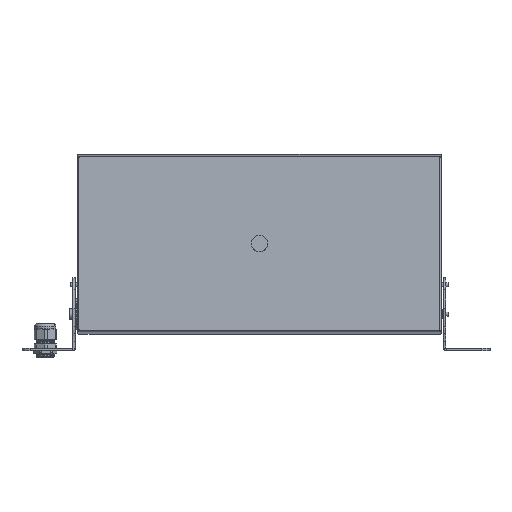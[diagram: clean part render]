
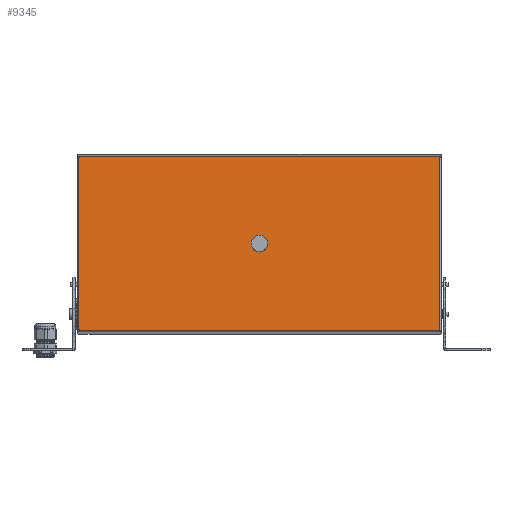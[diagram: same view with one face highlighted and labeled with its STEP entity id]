
A CAD part, front view. The second image highlights one B-rep face of the part: STEP entity #9345.
In plain terms, the highlighted planar face has unit normal (0, -0.999, 0.056) as drawn and (0, -0.99, 0.138) by its records, which use the part's own axes.
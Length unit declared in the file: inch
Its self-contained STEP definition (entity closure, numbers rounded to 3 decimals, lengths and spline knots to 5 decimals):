
#256 = DIRECTION ( 'NONE',  ( 0., 0.138, 0.99 ) ) ;
#483 = DIRECTION ( 'NONE',  ( 0., -0.138, -0.99 ) ) ;
#704 = EDGE_CURVE ( 'NONE', #8386, #9642, #7103, .T. ) ;
#846 = VERTEX_POINT ( 'NONE', #5104 ) ;
#978 = VERTEX_POINT ( 'NONE', #4442 ) ;
#1146 = DIRECTION ( 'NONE',  ( 0., -0.99, 0.138 ) ) ;
#1179 = VERTEX_POINT ( 'NONE', #2472 ) ;
#1240 = AXIS2_PLACEMENT_3D ( 'NONE', #10834, #4879, #11816 ) ;
#1357 = VECTOR ( 'NONE', #2723, 39.37008 ) ;
#1573 = CARTESIAN_POINT ( 'NONE',  ( -8.08, -1.05095, 8.05684 ) ) ;
#1667 = AXIS2_PLACEMENT_3D ( 'NONE', #12380, #6464, #483 ) ;
#1675 = VECTOR ( 'NONE', #10691, 39.37008 ) ;
#1680 = CARTESIAN_POINT ( 'NONE',  ( 8.14, -1.05095, 8.05684 ) ) ;
#2000 = ORIENTED_EDGE ( 'NONE', *, *, #12583, .F. ) ;
#2134 = CIRCLE ( 'NONE', #2526, 0.375 ) ;
#2293 = LINE ( 'NONE', #5677, #1675 ) ;
#2436 = CARTESIAN_POINT ( 'NONE',  ( 0., -1.53329, 4.59916 ) ) ;
#2472 = CARTESIAN_POINT ( 'NONE',  ( 8.08, -2.12753, 0.33924 ) ) ;
#2526 = AXIS2_PLACEMENT_3D ( 'NONE', #7124, #1146, #8128 ) ;
#2577 = CIRCLE ( 'NONE', #1667, 0.06 ) ;
#2578 = DIRECTION ( 'NONE',  ( 0., -0.138, -0.99 ) ) ;
#2600 = DIRECTION ( 'NONE',  ( 1., 0., 0. ) ) ;
#2723 = DIRECTION ( 'NONE',  ( 0., 0.138, 0.99 ) ) ;
#2780 = ORIENTED_EDGE ( 'NONE', *, *, #6696, .T. ) ;
#2837 = CARTESIAN_POINT ( 'NONE',  ( -8.08, -1.04266, 8.11626 ) ) ;
#3037 = VERTEX_POINT ( 'NONE', #11475 ) ;
#3243 = VERTEX_POINT ( 'NONE', #2837 ) ;
#3395 = DIRECTION ( 'NONE',  ( 0., -0.99, 0.138 ) ) ;
#3630 = VERTEX_POINT ( 'NONE', #2436 ) ;
#3671 = CARTESIAN_POINT ( 'NONE',  ( 0., -1.5851, 4.22775 ) ) ;
#3877 = ORIENTED_EDGE ( 'NONE', *, *, #10151, .T. ) ;
#4294 = CIRCLE ( 'NONE', #6251, 0.06 ) ;
#4439 = VECTOR ( 'NONE', #5774, 39.37008 ) ;
#4442 = CARTESIAN_POINT ( 'NONE',  ( 0., -1.63691, 3.85635 ) ) ;
#4604 = CARTESIAN_POINT ( 'NONE',  ( 8.08, -2.12753, 0.33924 ) ) ;
#4681 = DIRECTION ( 'NONE',  ( 0., -0.138, -0.99 ) ) ;
#4760 = EDGE_CURVE ( 'NONE', #5960, #1179, #9372, .T. ) ;
#4879 = DIRECTION ( 'NONE',  ( 0., -0.99, 0.138 ) ) ;
#4947 = EDGE_LOOP ( 'NONE', ( #9098, #2000 ) ) ;
#5104 = CARTESIAN_POINT ( 'NONE',  ( 8.08, -1.04266, 8.11626 ) ) ;
#5541 = FACE_BOUND ( 'NONE', #4947, .T. ) ;
#5609 = CARTESIAN_POINT ( 'NONE',  ( -8.08, -2.12753, 0.33924 ) ) ;
#5677 = CARTESIAN_POINT ( 'NONE',  ( -8.08, -1.04266, 8.11626 ) ) ;
#5774 = DIRECTION ( 'NONE',  ( 0., -0.138, -0.99 ) ) ;
#5804 = CARTESIAN_POINT ( 'NONE',  ( -8.14, -2.11924, 0.39867 ) ) ;
#5960 = VERTEX_POINT ( 'NONE', #5609 ) ;
#6160 = FACE_OUTER_BOUND ( 'NONE', #9615, .T. ) ;
#6228 = DIRECTION ( 'NONE',  ( 0., -0.99, 0.138 ) ) ;
#6251 = AXIS2_PLACEMENT_3D ( 'NONE', #1573, #8557, #2578 ) ;
#6464 = DIRECTION ( 'NONE',  ( 0., -0.99, 0.138 ) ) ;
#6660 = ORIENTED_EDGE ( 'NONE', *, *, #4760, .T. ) ;
#6696 = EDGE_CURVE ( 'NONE', #3037, #846, #11937, .T. ) ;
#6738 = VECTOR ( 'NONE', #2600, 39.37008 ) ;
#6903 = ORIENTED_EDGE ( 'NONE', *, *, #8148, .T. ) ;
#7103 = LINE ( 'NONE', #5804, #4439 ) ;
#7124 = CARTESIAN_POINT ( 'NONE',  ( 0., -1.5851, 4.22775 ) ) ;
#7300 = CIRCLE ( 'NONE', #11402, 0.375 ) ;
#7343 = ORIENTED_EDGE ( 'NONE', *, *, #704, .T. ) ;
#7381 = VERTEX_POINT ( 'NONE', #8350 ) ;
#7392 = CARTESIAN_POINT ( 'NONE',  ( -8.08, -2.11924, 0.39867 ) ) ;
#7478 = ORIENTED_EDGE ( 'NONE', *, *, #7646, .T. ) ;
#7585 = EDGE_CURVE ( 'NONE', #3630, #978, #7300, .T. ) ;
#7641 = EDGE_CURVE ( 'NONE', #7381, #3037, #11917, .T. ) ;
#7646 = EDGE_CURVE ( 'NONE', #846, #3243, #2293, .T. ) ;
#7671 = ORIENTED_EDGE ( 'NONE', *, *, #7641, .T. ) ;
#7962 = EDGE_CURVE ( 'NONE', #1179, #7381, #8217, .T. ) ;
#7999 = CARTESIAN_POINT ( 'NONE',  ( -8.14, -2.11924, 0.39867 ) ) ;
#8128 = DIRECTION ( 'NONE',  ( 0., -0.138, -0.99 ) ) ;
#8148 = EDGE_CURVE ( 'NONE', #3243, #8386, #4294, .T. ) ;
#8217 = CIRCLE ( 'NONE', #11156, 0.06 ) ;
#8350 = CARTESIAN_POINT ( 'NONE',  ( 8.14, -2.11924, 0.39867 ) ) ;
#8386 = VERTEX_POINT ( 'NONE', #11777 ) ;
#8557 = DIRECTION ( 'NONE',  ( 0., -0.99, 0.138 ) ) ;
#9098 = ORIENTED_EDGE ( 'NONE', *, *, #7585, .F. ) ;
#9345 = ADVANCED_FACE ( 'NONE', ( #5541, #6160 ), #9366, .T. ) ;
#9366 = PLANE ( 'NONE',  #11060 ) ;
#9372 = LINE ( 'NONE', #4604, #6738 ) ;
#9615 = EDGE_LOOP ( 'NONE', ( #3877, #6660, #12709, #7671, #2780, #7478, #6903, #7343 ) ) ;
#9642 = VERTEX_POINT ( 'NONE', #7999 ) ;
#10151 = EDGE_CURVE ( 'NONE', #9642, #5960, #2577, .T. ) ;
#10380 = DIRECTION ( 'NONE',  ( 0., -0.138, -0.99 ) ) ;
#10652 = DIRECTION ( 'NONE',  ( 0., -0.99, 0.138 ) ) ;
#10691 = DIRECTION ( 'NONE',  ( -1., 0., 0. ) ) ;
#10834 = CARTESIAN_POINT ( 'NONE',  ( 8.08, -1.05095, 8.05684 ) ) ;
#11060 = AXIS2_PLACEMENT_3D ( 'NONE', #7392, #3395, #10380 ) ;
#11156 = AXIS2_PLACEMENT_3D ( 'NONE', #12151, #6228, #256 ) ;
#11402 = AXIS2_PLACEMENT_3D ( 'NONE', #3671, #10652, #4681 ) ;
#11475 = CARTESIAN_POINT ( 'NONE',  ( 8.14, -1.05095, 8.05684 ) ) ;
#11777 = CARTESIAN_POINT ( 'NONE',  ( -8.14, -1.05095, 8.05684 ) ) ;
#11816 = DIRECTION ( 'NONE',  ( 0., -0.138, -0.99 ) ) ;
#11917 = LINE ( 'NONE', #1680, #1357 ) ;
#11937 = CIRCLE ( 'NONE', #1240, 0.06 ) ;
#12151 = CARTESIAN_POINT ( 'NONE',  ( 8.08, -2.11924, 0.39867 ) ) ;
#12380 = CARTESIAN_POINT ( 'NONE',  ( -8.08, -2.11924, 0.39867 ) ) ;
#12583 = EDGE_CURVE ( 'NONE', #978, #3630, #2134, .T. ) ;
#12709 = ORIENTED_EDGE ( 'NONE', *, *, #7962, .T. ) ;
